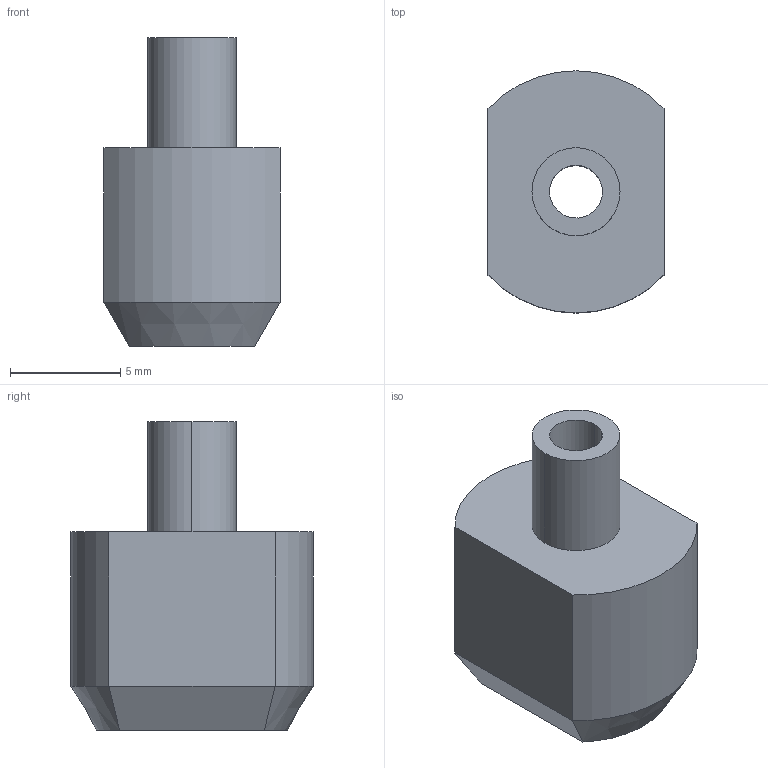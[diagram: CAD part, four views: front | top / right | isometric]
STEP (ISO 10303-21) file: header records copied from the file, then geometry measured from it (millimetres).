
FILE_DESCRIPTION(('STEP AP214'),'1');
FILE_NAME('EGT212_1698061_ZENTRIERSTIFT.CATPart.stp','2015-09-14T13:13:28',('3D-Tool'),(' '),'Spatial InterOp 3D',' ',' ');
FILE_SCHEMA(('automotive_design'));
Length unit declared in the file: millimetre
Products named in the file (1): EGT212_1698061_ZENTRIERSTIFT|EGT212_ZENTRIERSTIFT|Bohrbearbeitung
Bounding box: 8 x 11 x 14 mm (x, y, z)
Volume: 679.4 mm3; surface area: 583.2 mm2
Topology: 1 solids, 1 shells, 17 faces, 38 edges, 24 vertices
Faces by surface type: cylinder 8, plane 7, cone 2
Entity records: 651 total; most frequent: CARTESIAN_POINT 96, DIRECTION 88, ORIENTED_EDGE 76, EDGE_CURVE 38, AXIS2_PLACEMENT_3D 36, VERTEX_POINT 24, EDGE_LOOP 20, STYLED_ITEM 18
